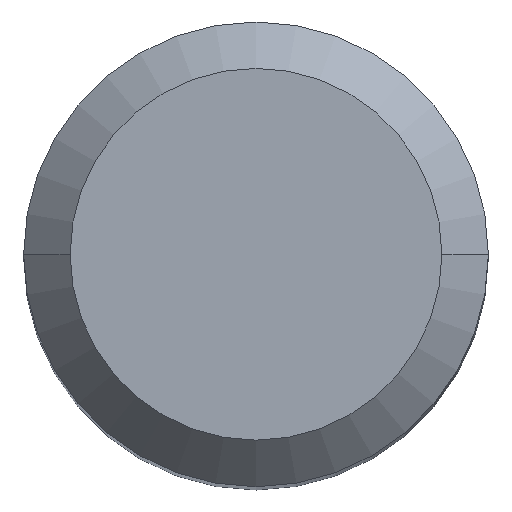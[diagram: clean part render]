
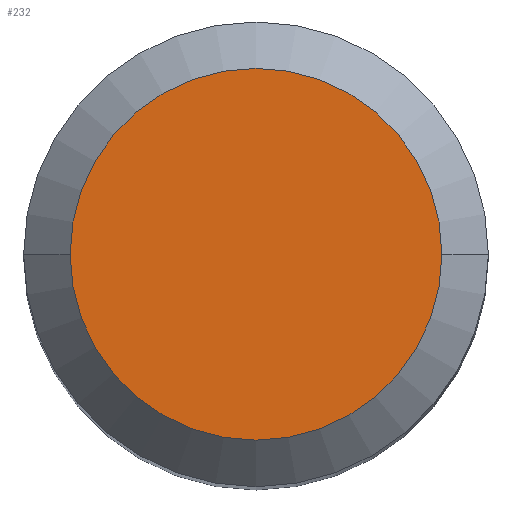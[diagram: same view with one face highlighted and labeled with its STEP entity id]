
A CAD part, top view. The second image highlights one B-rep face of the part: STEP entity #232.
In plain terms, the highlighted planar face has unit normal (0, 0, 1).
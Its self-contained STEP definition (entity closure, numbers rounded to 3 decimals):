
#15 = ORIENTED_EDGE ( 'NONE', *, *, #133, .F. ) ;
#33 = DIRECTION ( 'NONE',  ( 0., 0., -1. ) ) ;
#34 = DIRECTION ( 'NONE',  ( 1., 0., 0. ) ) ;
#43 = AXIS2_PLACEMENT_3D ( 'NONE', #82, #55, #34 ) ;
#48 = DIRECTION ( 'NONE',  ( 0., 0., -1. ) ) ;
#52 = AXIS2_PLACEMENT_3D ( 'NONE', #59, #33, #135 ) ;
#55 = DIRECTION ( 'NONE',  ( 0., 0., 1. ) ) ;
#59 = CARTESIAN_POINT ( 'NONE',  ( 0., 0., 0. ) ) ;
#82 = CARTESIAN_POINT ( 'NONE',  ( 0., 4.8, 0. ) ) ;
#84 = FACE_OUTER_BOUND ( 'NONE', #282, .T. ) ;
#94 = ORIENTED_EDGE ( 'NONE', *, *, #153, .F. ) ;
#133 = EDGE_CURVE ( 'NONE', #197, #219, #266, .T. ) ;
#135 = DIRECTION ( 'NONE',  ( -1., 0., 0. ) ) ;
#148 = DIRECTION ( 'NONE',  ( -1., 0., 0. ) ) ;
#153 = EDGE_CURVE ( 'NONE', #219, #197, #263, .T. ) ;
#166 = AXIS2_PLACEMENT_3D ( 'NONE', #174, #48, #148 ) ;
#174 = CARTESIAN_POINT ( 'NONE',  ( 0., 0., 0. ) ) ;
#175 = CARTESIAN_POINT ( 'NONE',  ( -4.8, 0., 0. ) ) ;
#197 = VERTEX_POINT ( 'NONE', #268 ) ;
#219 = VERTEX_POINT ( 'NONE', #175 ) ;
#232 = ADVANCED_FACE ( 'NONE', ( #84 ), #293, .T. ) ;
#263 = CIRCLE ( 'NONE', #52, 4.8 ) ;
#266 = CIRCLE ( 'NONE', #166, 4.8 ) ;
#268 = CARTESIAN_POINT ( 'NONE',  ( 4.8, 0., 0. ) ) ;
#282 = EDGE_LOOP ( 'NONE', ( #94, #15 ) ) ;
#293 = PLANE ( 'NONE',  #43 ) ;
